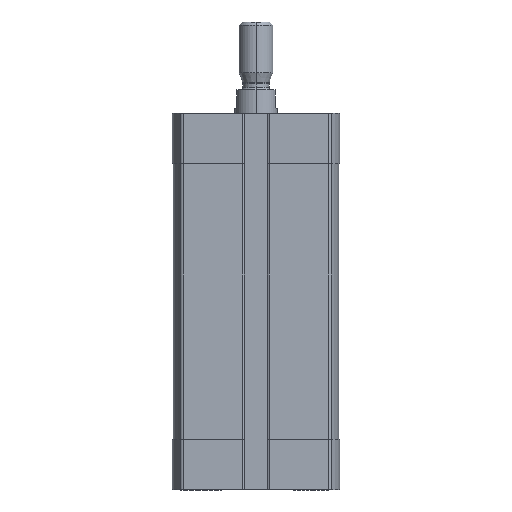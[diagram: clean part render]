
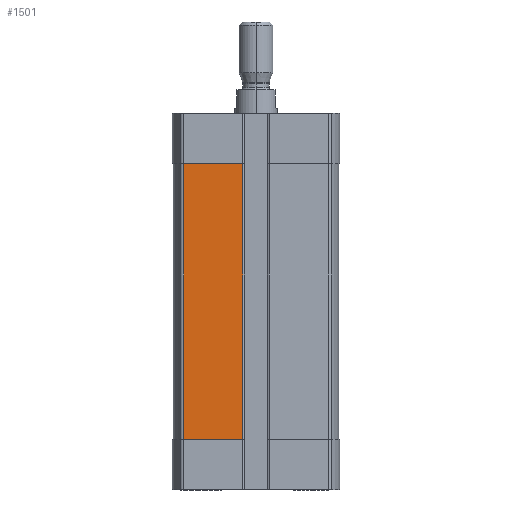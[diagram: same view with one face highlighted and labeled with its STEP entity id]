
A CAD part, left-side view. The second image highlights one B-rep face of the part: STEP entity #1501.
In plain terms, the highlighted planar face has unit normal (-1, 0, 0).
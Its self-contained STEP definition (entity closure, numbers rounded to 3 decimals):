
#28 = ORIENTED_EDGE ( 'NONE', *, *, #1761, .T. ) ;
#165 = CARTESIAN_POINT ( 'NONE',  ( -19.5, 17.091, -77. ) ) ;
#244 = VERTEX_POINT ( 'NONE', #6353 ) ;
#1501 = ADVANCED_FACE ( 'NONE', ( #12493 ), #11290, .T. ) ;
#1513 = DIRECTION ( 'NONE',  ( -1., 0., 0. ) ) ;
#1761 = EDGE_CURVE ( 'NONE', #6771, #6715, #9952, .T. ) ;
#1805 = VECTOR ( 'NONE', #4314, 1000. ) ;
#2046 = ORIENTED_EDGE ( 'NONE', *, *, #4704, .T. ) ;
#3002 = CARTESIAN_POINT ( 'NONE',  ( -19.5, 3.1, -77. ) ) ;
#3718 = EDGE_LOOP ( 'NONE', ( #28, #12600, #2046, #9037 ) ) ;
#4314 = DIRECTION ( 'NONE',  ( 0., 1., 0. ) ) ;
#4704 = EDGE_CURVE ( 'NONE', #244, #4918, #9942, .T. ) ;
#4834 = VECTOR ( 'NONE', #7086, 1000. ) ;
#4918 = VERTEX_POINT ( 'NONE', #10756 ) ;
#5991 = CARTESIAN_POINT ( 'NONE',  ( -19.5, 17.091, -77. ) ) ;
#6353 = CARTESIAN_POINT ( 'NONE',  ( -19.5, 3.1, -12. ) ) ;
#6372 = CARTESIAN_POINT ( 'NONE',  ( -19.5, 0., -12. ) ) ;
#6690 = VECTOR ( 'NONE', #9072, 1000. ) ;
#6715 = VERTEX_POINT ( 'NONE', #8196 ) ;
#6771 = VERTEX_POINT ( 'NONE', #165 ) ;
#7086 = DIRECTION ( 'NONE',  ( 0., 0., 1. ) ) ;
#7162 = CARTESIAN_POINT ( 'NONE',  ( -19.5, 17.091, -77. ) ) ;
#7517 = DIRECTION ( 'NONE',  ( 0., 0., 1. ) ) ;
#7909 = VECTOR ( 'NONE', #11683, 1000. ) ;
#8184 = AXIS2_PLACEMENT_3D ( 'NONE', #7162, #1513, #7517 ) ;
#8196 = CARTESIAN_POINT ( 'NONE',  ( -19.5, 3.1, -77. ) ) ;
#8926 = EDGE_CURVE ( 'NONE', #6715, #244, #9931, .T. ) ;
#9037 = ORIENTED_EDGE ( 'NONE', *, *, #11803, .T. ) ;
#9072 = DIRECTION ( 'NONE',  ( 0., 0., -1. ) ) ;
#9705 = LINE ( 'NONE', #5991, #6690 ) ;
#9931 = LINE ( 'NONE', #3002, #4834 ) ;
#9942 = LINE ( 'NONE', #6372, #1805 ) ;
#9952 = LINE ( 'NONE', #12404, #7909 ) ;
#10756 = CARTESIAN_POINT ( 'NONE',  ( -19.5, 17.091, -12. ) ) ;
#11290 = PLANE ( 'NONE',  #8184 ) ;
#11683 = DIRECTION ( 'NONE',  ( 0., -1., 0. ) ) ;
#11803 = EDGE_CURVE ( 'NONE', #4918, #6771, #9705, .T. ) ;
#12404 = CARTESIAN_POINT ( 'NONE',  ( -19.5, 17.091, -77. ) ) ;
#12493 = FACE_OUTER_BOUND ( 'NONE', #3718, .T. ) ;
#12600 = ORIENTED_EDGE ( 'NONE', *, *, #8926, .T. ) ;
